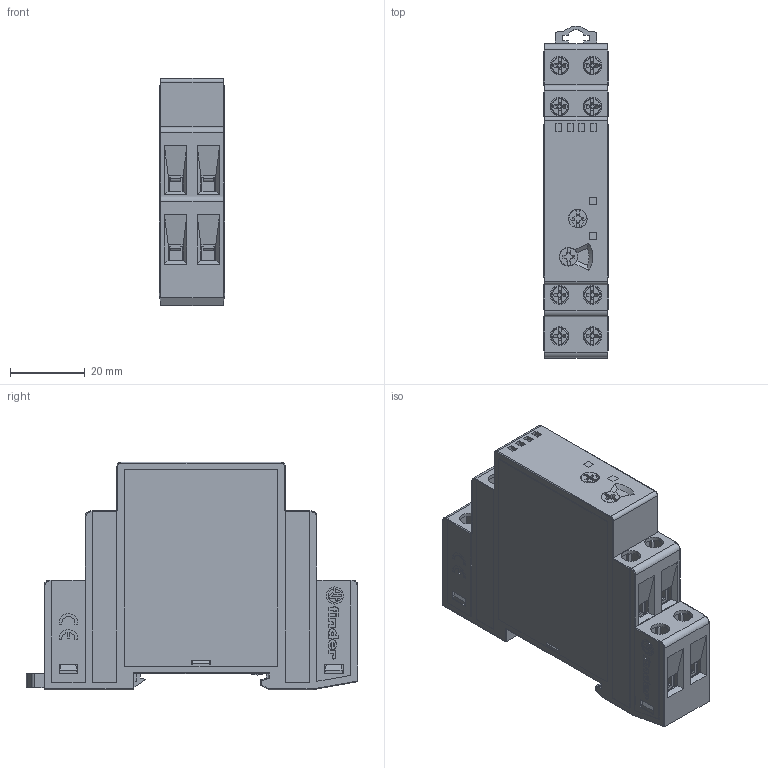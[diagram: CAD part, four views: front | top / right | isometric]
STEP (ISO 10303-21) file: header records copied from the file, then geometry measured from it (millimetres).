
FILE_DESCRIPTION(/* description */ ('Unknown'),/* implementation_level */ '2;1');
FILE_NAME(/* name */ '7251',/* time_stamp */ '2024-07-19T15:48:39+02:00',/* author */ ('Unknown'),/* organization */ ('Unknown'),/* preprocessor_version */ 'ST-DEVELOPER v18.102',/* originating_system */ 'Solid Edge',/* authorisation */ 'Unknown');
FILE_SCHEMA (('AUTOMOTIVE_DESIGN {1 0 10303 214 3 1 1}'));
Products named in the file (1): 7251
Bounding box: 17.5 x 88.85 x 60.8 mm (x, y, z)
Volume: 21256.2 mm3; surface area: 37121.6 mm2
Topology: 6 solids, 6 shells, 4631 faces, 12049 edges, 7440 vertices
Faces by surface type: plane 3997, cylinder 475, cone 59, bspline 56, torus 44
Full cylindrical faces by diameter (mm): 0.252 x1, 0.374 x2, 0.429 x5, 1.4 x2, 1.5 x1, 2.3 x8, 2.4 x8, 2.459 x8, 2.5 x2, 3 x14, 3.6 x8, 3.601 x8, 4.566 x2, 4.6 x8, 5 x9, 5.2 x1, 11 x1
Entity records: 171568 total; most frequent: CARTESIAN_POINT 27951, ORIENTED_EDGE 23718, DIRECTION 21762, EDGE_CURVE 11859, LINE 10276, VECTOR 10276, VERTEX_POINT 7385, AXIS2_PLACEMENT_3D 5743
